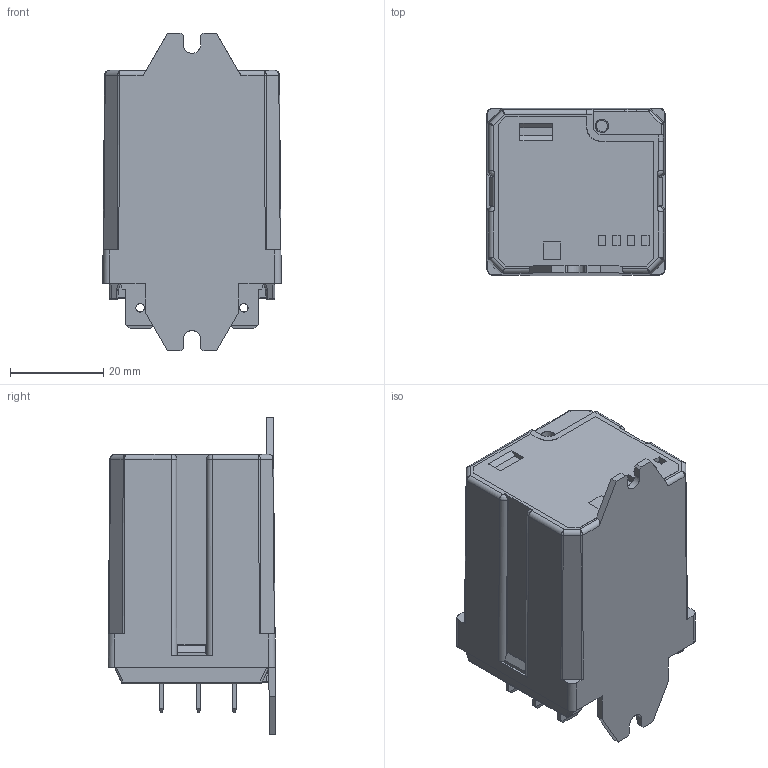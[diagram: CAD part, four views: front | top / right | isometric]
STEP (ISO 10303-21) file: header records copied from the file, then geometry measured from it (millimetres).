
FILE_DESCRIPTION(('STEP AP214'),'2;1');
FILE_NAME('6283-0300.stp','2011-09-28T16:30:06',(''),(''),'2007.1.106','THINKDESIGN','');
FILE_SCHEMA(('AUTOMOTIVE_DESIGN'));
Length unit declared in the file: millimetre
Products named in the file (1): None
Bounding box: 38.2 x 35.93 x 68.01 mm (x, y, z)
Surface area: 13768.7 mm2 (no closed solid volume)
Topology: 0 solids, 0 shells, 490 faces, 2695 edges, 2658 vertices
Faces by surface type: plane 304, cylinder 107, bspline 79
Full cylindrical faces by diameter (mm): 1.8 x8, 5 x1
Entity records: 30211 total; most frequent: CARTESIAN_POINT 11143, DIRECTION 3125, COMPOSITE_CURVE_SEGMENT 2671, TRIMMED_CURVE 2165, VECTOR 2063, LINE 2063, AXIS2_PLACEMENT_3D 531, OUTER_BOUNDARY_CURVE 490
